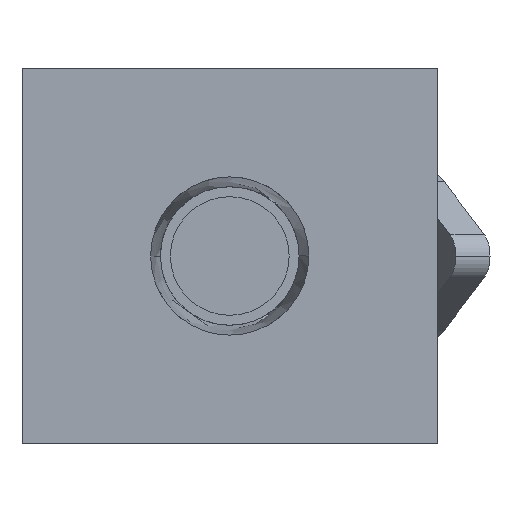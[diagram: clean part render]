
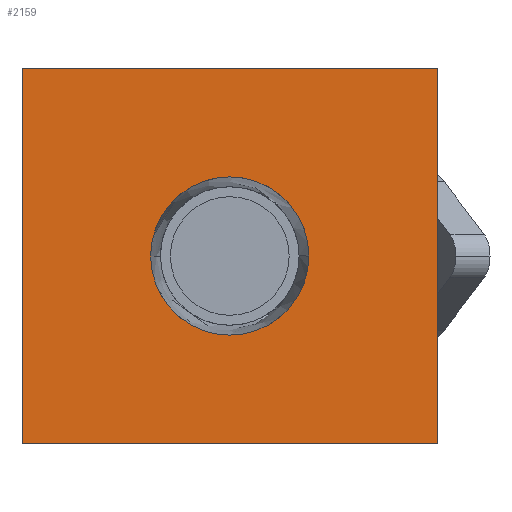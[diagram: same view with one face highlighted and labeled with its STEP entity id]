
A CAD part, front view. The second image highlights one B-rep face of the part: STEP entity #2159.
In plain terms, the highlighted planar face has unit normal (0, -1, 0).
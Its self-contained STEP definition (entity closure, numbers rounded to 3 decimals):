
#5 = CARTESIAN_POINT ( 'NONE',  ( -52.5, 0., -47.5 ) ) ;
#34 = CARTESIAN_POINT ( 'NONE',  ( 52.5, 0., 47.5 ) ) ;
#68 = EDGE_CURVE ( 'NONE', #1875, #332, #2044, .T. ) ;
#133 = ORIENTED_EDGE ( 'NONE', *, *, #1857, .F. ) ;
#185 = CARTESIAN_POINT ( 'NONE',  ( 52.5, 0., 47.5 ) ) ;
#195 = EDGE_LOOP ( 'NONE', ( #888, #133 ) ) ;
#201 = VECTOR ( 'NONE', #984, 1000. ) ;
#217 = CARTESIAN_POINT ( 'NONE',  ( 0., 0., 0. ) ) ;
#309 = CARTESIAN_POINT ( 'NONE',  ( -52.5, 0., 47.5 ) ) ;
#332 = VERTEX_POINT ( 'NONE', #2010 ) ;
#382 = ORIENTED_EDGE ( 'NONE', *, *, #2244, .F. ) ;
#404 = DIRECTION ( 'NONE',  ( 0., -1., 0. ) ) ;
#416 = DIRECTION ( 'NONE',  ( 0., 0., -1. ) ) ;
#450 = DIRECTION ( 'NONE',  ( 1., 0., 0. ) ) ;
#560 = VERTEX_POINT ( 'NONE', #999 ) ;
#580 = VERTEX_POINT ( 'NONE', #1186 ) ;
#691 = CARTESIAN_POINT ( 'NONE',  ( -52.5, 0., -47.5 ) ) ;
#707 = LINE ( 'NONE', #1355, #201 ) ;
#748 = AXIS2_PLACEMENT_3D ( 'NONE', #1052, #2364, #1246 ) ;
#888 = ORIENTED_EDGE ( 'NONE', *, *, #2119, .F. ) ;
#984 = DIRECTION ( 'NONE',  ( 0., 0., 1. ) ) ;
#999 = CARTESIAN_POINT ( 'NONE',  ( 0., 0., 20. ) ) ;
#1046 = VERTEX_POINT ( 'NONE', #309 ) ;
#1052 = CARTESIAN_POINT ( 'NONE',  ( 0., 0., 0. ) ) ;
#1059 = EDGE_CURVE ( 'NONE', #332, #1984, #2042, .T. ) ;
#1070 = ORIENTED_EDGE ( 'NONE', *, *, #68, .F. ) ;
#1186 = CARTESIAN_POINT ( 'NONE',  ( 0., 0., -20. ) ) ;
#1192 = CARTESIAN_POINT ( 'NONE',  ( -52.5, 0., 47.5 ) ) ;
#1220 = CIRCLE ( 'NONE', #2175, 20. ) ;
#1246 = DIRECTION ( 'NONE',  ( 0., 0., -1. ) ) ;
#1322 = FACE_OUTER_BOUND ( 'NONE', #1722, .T. ) ;
#1355 = CARTESIAN_POINT ( 'NONE',  ( -52.5, 0., 47.5 ) ) ;
#1502 = AXIS2_PLACEMENT_3D ( 'NONE', #1528, #404, #1718 ) ;
#1528 = CARTESIAN_POINT ( 'NONE',  ( 0., 0., 0. ) ) ;
#1540 = DIRECTION ( 'NONE',  ( 0., -1., 0. ) ) ;
#1555 = VECTOR ( 'NONE', #2185, 1000. ) ;
#1558 = VECTOR ( 'NONE', #1705, 1000. ) ;
#1632 = ORIENTED_EDGE ( 'NONE', *, *, #1758, .F. ) ;
#1705 = DIRECTION ( 'NONE',  ( 0., 0., -1. ) ) ;
#1718 = DIRECTION ( 'NONE',  ( 0., 0., -1. ) ) ;
#1722 = EDGE_LOOP ( 'NONE', ( #1070, #1632, #382, #2314 ) ) ;
#1758 = EDGE_CURVE ( 'NONE', #1046, #1875, #2275, .T. ) ;
#1857 = EDGE_CURVE ( 'NONE', #560, #580, #1220, .T. ) ;
#1875 = VERTEX_POINT ( 'NONE', #34 ) ;
#1984 = VERTEX_POINT ( 'NONE', #5 ) ;
#2010 = CARTESIAN_POINT ( 'NONE',  ( 52.5, 0., -47.5 ) ) ;
#2042 = LINE ( 'NONE', #691, #1555 ) ;
#2044 = LINE ( 'NONE', #185, #1558 ) ;
#2119 = EDGE_CURVE ( 'NONE', #580, #560, #2322, .T. ) ;
#2159 = ADVANCED_FACE ( 'NONE', ( #2255, #1322 ), #2265, .T. ) ;
#2175 = AXIS2_PLACEMENT_3D ( 'NONE', #217, #1540, #416 ) ;
#2185 = DIRECTION ( 'NONE',  ( -1., 0., 0. ) ) ;
#2244 = EDGE_CURVE ( 'NONE', #1984, #1046, #707, .T. ) ;
#2255 = FACE_BOUND ( 'NONE', #195, .T. ) ;
#2265 = PLANE ( 'NONE',  #1502 ) ;
#2275 = LINE ( 'NONE', #1192, #2388 ) ;
#2314 = ORIENTED_EDGE ( 'NONE', *, *, #1059, .F. ) ;
#2322 = CIRCLE ( 'NONE', #748, 20. ) ;
#2364 = DIRECTION ( 'NONE',  ( 0., -1., 0. ) ) ;
#2388 = VECTOR ( 'NONE', #450, 1000. ) ;
